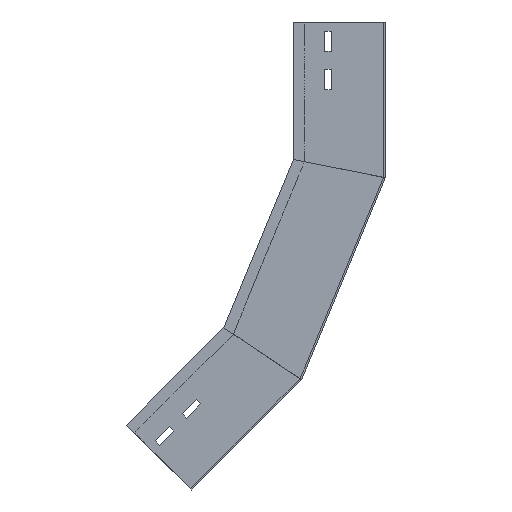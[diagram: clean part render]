
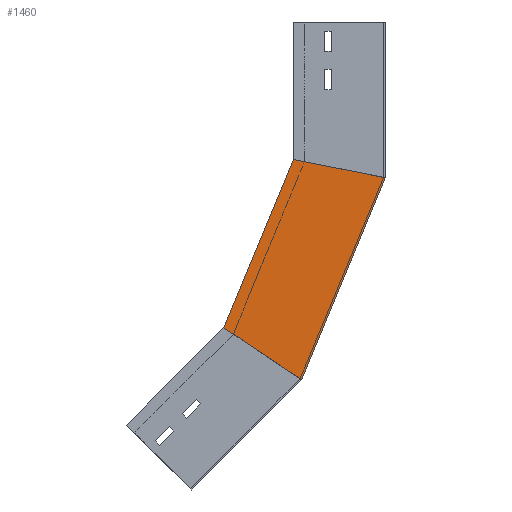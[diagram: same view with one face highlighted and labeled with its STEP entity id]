
A CAD part, left-side view. The second image highlights one B-rep face of the part: STEP entity #1460.
In plain terms, the highlighted planar face has unit normal (-1, 0, 0) as drawn and (1, 0, 0) by its records, which use the part's own axes.
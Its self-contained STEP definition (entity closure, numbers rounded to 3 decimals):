
#39 = VECTOR ( 'NONE', #679, 1000. ) ;
#42 = ORIENTED_EDGE ( 'NONE', *, *, #1350, .T. ) ;
#68 = PLANE ( 'NONE',  #884 ) ;
#181 = LINE ( 'NONE', #1017, #39 ) ;
#231 = VERTEX_POINT ( 'NONE', #1048 ) ;
#256 = DIRECTION ( 'NONE',  ( 0., 0.383, -0.924 ) ) ;
#263 = EDGE_CURVE ( 'NONE', #480, #231, #483, .T. ) ;
#277 = EDGE_LOOP ( 'NONE', ( #805, #42, #1067, #644 ) ) ;
#361 = CARTESIAN_POINT ( 'NONE',  ( 0., 92.388, -131.332 ) ) ;
#381 = DIRECTION ( 'NONE',  ( 0., -0.981, -0.195 ) ) ;
#422 = CARTESIAN_POINT ( 'NONE',  ( 0., 0., -169.6 ) ) ;
#462 = VECTOR ( 'NONE', #381, 1000. ) ;
#480 = VERTEX_POINT ( 'NONE', #620 ) ;
#483 = LINE ( 'NONE', #361, #857 ) ;
#526 = LINE ( 'NONE', #617, #462 ) ;
#569 = EDGE_CURVE ( 'NONE', #231, #1311, #181, .T. ) ;
#617 = CARTESIAN_POINT ( 'NONE',  ( 0., 32.452, -163.145 ) ) ;
#620 = CARTESIAN_POINT ( 'NONE',  ( 0., 100., -149.709 ) ) ;
#644 = ORIENTED_EDGE ( 'NONE', *, *, #569, .F. ) ;
#679 = DIRECTION ( 'NONE',  ( 0., -0.831, -0.556 ) ) ;
#805 = ORIENTED_EDGE ( 'NONE', *, *, #263, .F. ) ;
#857 = VECTOR ( 'NONE', #256, 1000. ) ;
#884 = AXIS2_PLACEMENT_3D ( 'NONE', #993, #1446, #931 ) ;
#885 = EDGE_CURVE ( 'NONE', #1100, #1311, #1351, .T. ) ;
#900 = DIRECTION ( 'NONE',  ( 0., 0.383, -0.924 ) ) ;
#931 = DIRECTION ( 'NONE',  ( 0., 0., 1. ) ) ;
#993 = CARTESIAN_POINT ( 'NONE',  ( 0., 0., -169.6 ) ) ;
#1013 = CARTESIAN_POINT ( 'NONE',  ( 0., 0., -169.6 ) ) ;
#1017 = CARTESIAN_POINT ( 'NONE',  ( 0., 129.74, -363.769 ) ) ;
#1048 = CARTESIAN_POINT ( 'NONE',  ( 0., 175.893, -332.93 ) ) ;
#1067 = ORIENTED_EDGE ( 'NONE', *, *, #885, .T. ) ;
#1071 = VECTOR ( 'NONE', #900, 1000. ) ;
#1089 = CARTESIAN_POINT ( 'NONE',  ( 0., 91.117, -389.576 ) ) ;
#1100 = VERTEX_POINT ( 'NONE', #422 ) ;
#1104 = FACE_OUTER_BOUND ( 'NONE', #277, .T. ) ;
#1311 = VERTEX_POINT ( 'NONE', #1089 ) ;
#1350 = EDGE_CURVE ( 'NONE', #480, #1100, #526, .T. ) ;
#1351 = LINE ( 'NONE', #1013, #1071 ) ;
#1446 = DIRECTION ( 'NONE',  ( -1., 0., 0. ) ) ;
#1460 = ADVANCED_FACE ( 'NONE', ( #1104 ), #68, .F. ) ;
